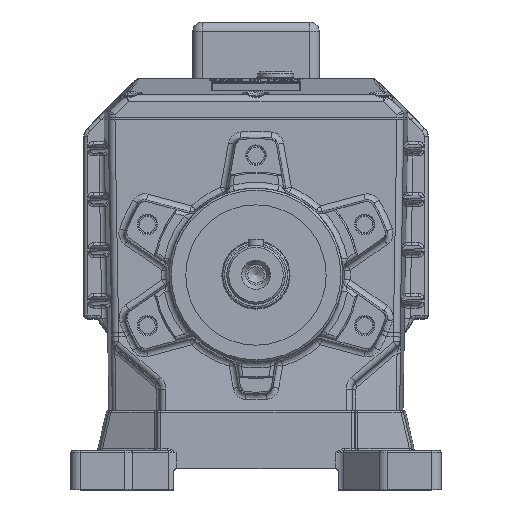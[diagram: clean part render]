
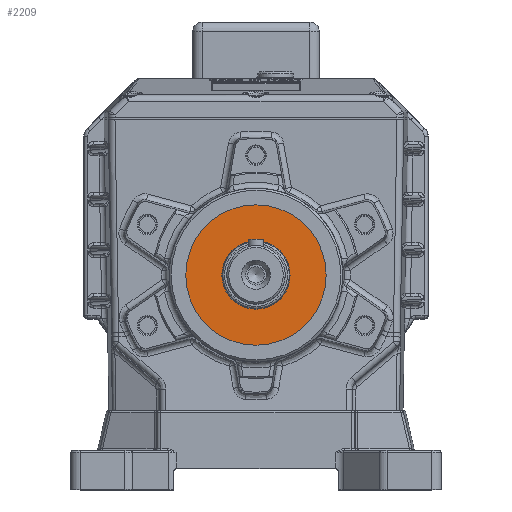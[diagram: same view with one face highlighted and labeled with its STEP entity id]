
A CAD part, top view. The second image highlights one B-rep face of the part: STEP entity #2209.
In plain terms, the highlighted planar face has unit normal (0, 0, 1).
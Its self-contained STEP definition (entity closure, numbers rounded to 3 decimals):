
#2209 = ADVANCED_FACE( '', ( #5824, #5825 ), #5826, .F. );
#5824 = FACE_BOUND( '', #13920, .T. );
#5825 = FACE_OUTER_BOUND( '', #13921, .T. );
#5826 = PLANE( '', #13922 );
#13920 = EDGE_LOOP( '', ( #35557 ) );
#13921 = EDGE_LOOP( '', ( #35558 ) );
#13922 = AXIS2_PLACEMENT_3D( '', #35559, #35560, #35561 );
#35557 = ORIENTED_EDGE( '', *, *, #48061, .T. );
#35558 = ORIENTED_EDGE( '', *, *, #48062, .F. );
#35559 = CARTESIAN_POINT( '', ( 0., 0., 11.5 ) );
#35560 = DIRECTION( '', ( 0., 0., -1. ) );
#35561 = DIRECTION( '', ( 0., 1., 0. ) );
#48061 = EDGE_CURVE( '', #54453, #54453, #54454, .T. );
#48062 = EDGE_CURVE( '', #54455, #54455, #54456, .T. );
#54453 = VERTEX_POINT( '', #65047 );
#54454 = CIRCLE( '', #65048, 17.5 );
#54455 = VERTEX_POINT( '', #65049 );
#54456 = CIRCLE( '', #65050, 36. );
#65047 = CARTESIAN_POINT( '', ( 17.5, 0., 11.5 ) );
#65048 = AXIS2_PLACEMENT_3D( '', #76678, #76679, #76680 );
#65049 = CARTESIAN_POINT( '', ( 36., 0., 11.5 ) );
#65050 = AXIS2_PLACEMENT_3D( '', #76681, #76682, #76683 );
#76678 = CARTESIAN_POINT( '', ( 0., 0., 11.5 ) );
#76679 = DIRECTION( '', ( 0., 0., -1. ) );
#76680 = DIRECTION( '', ( 1., 0., 0. ) );
#76681 = CARTESIAN_POINT( '', ( 0., 0., 11.5 ) );
#76682 = DIRECTION( '', ( 0., 0., -1. ) );
#76683 = DIRECTION( '', ( 1., 0., 0. ) );
